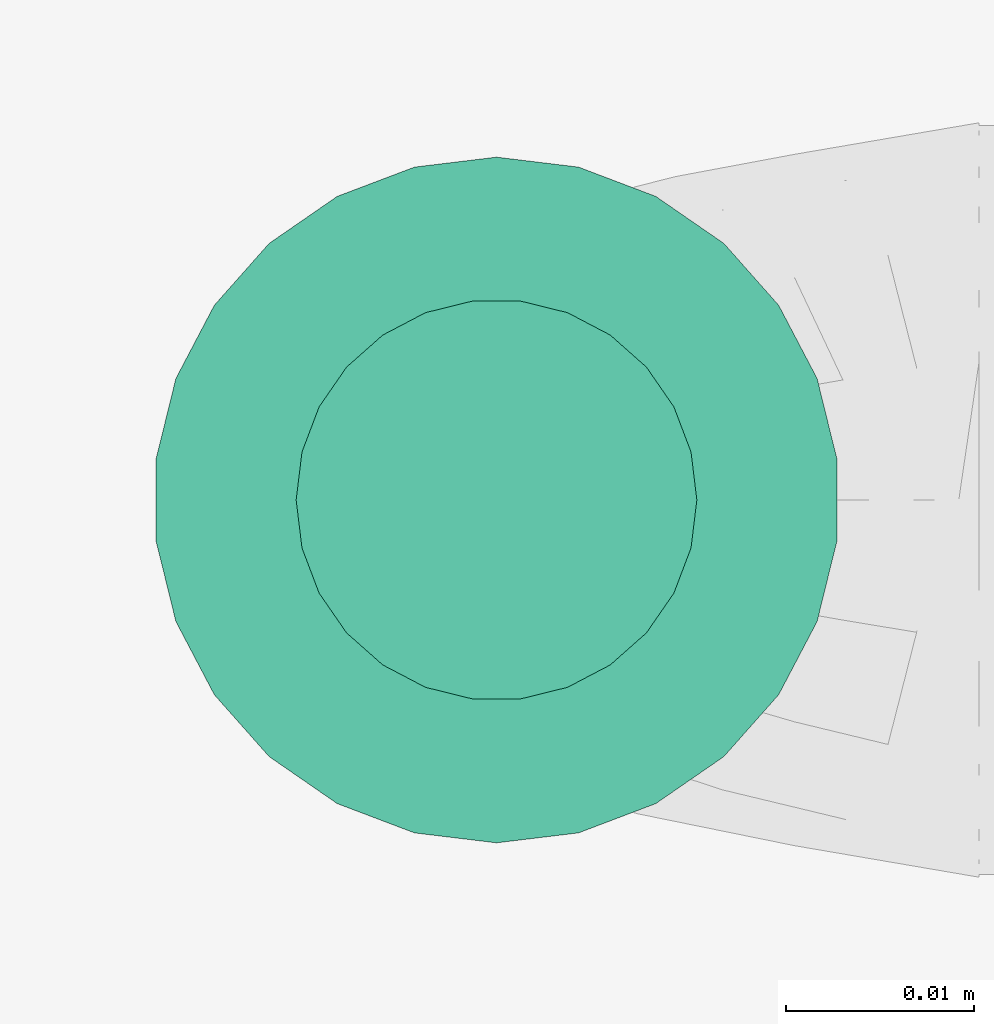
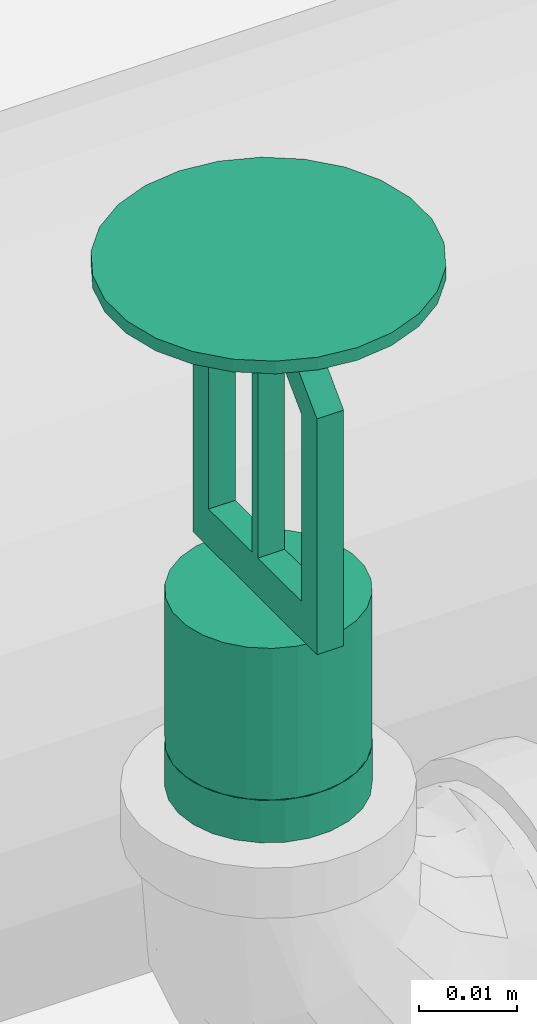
# One storey, part 91 of 108: 1 fire suppression terminal, 1 pipe segment.
"""IFC4 building model written with IfcOpenShell, lengths in feet."""

from ifc_helpers import new_model, entity, si_unit, converted_unit, derived_unit, direction, frame, frame_2d, origin, origin_2d_with_axis, place, context, subcontext, project, spatial, polyline, circle, outline, extrude, source, transform, mapped, material, type_object, type_shapes, element, save


model = new_model("IFC4")

# Units and contexts
model_context = context("Model", 3, precision=0.0001, world=origin(), true_north=direction((6.12303176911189e-17, 1.0)))
body_context = subcontext(model_context, "Body", "Model", "MODEL_VIEW")
ifc_project = project(units=[converted_unit("LENGTHUNIT", "FOOT", entity("IfcRatioMeasure", 0.3048), si_unit("LENGTHUNIT", "METRE"), dimensions=[1, 0, 0, 0, 0, 0, 0]), converted_unit("AREAUNIT", "SQUARE FOOT", entity("IfcRatioMeasure", 0.09290304), si_unit("AREAUNIT", "SQUARE_METRE"), dimensions=[2, 0, 0, 0, 0, 0, 0]), converted_unit("VOLUMEUNIT", "CUBIC FOOT", entity("IfcRatioMeasure", 0.028316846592), si_unit("VOLUMEUNIT", "CUBIC_METRE"), dimensions=[3, 0, 0, 0, 0, 0, 0]), converted_unit("PLANEANGLEUNIT", "DEGREE", entity("IfcRatioMeasure", 0.0174532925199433), si_unit("PLANEANGLEUNIT", "RADIAN"), dimensions=[0, 0, 0, 0, 0, 0, 0]), si_unit("MASSUNIT", "GRAM", prefix="KILO"), derived_unit("MASSDENSITYUNIT", [(si_unit("MASSUNIT", "GRAM", prefix="KILO"), 1), (si_unit("LENGTHUNIT", "METRE"), -3)]), si_unit("TIMEUNIT", "SECOND"), si_unit("FREQUENCYUNIT", "HERTZ"), si_unit("THERMODYNAMICTEMPERATUREUNIT", "DEGREE_CELSIUS"), derived_unit("THERMALTRANSMITTANCEUNIT", [(si_unit("MASSUNIT", "GRAM", prefix="KILO"), 1), (si_unit("THERMODYNAMICTEMPERATUREUNIT", "KELVIN"), -1), (si_unit("TIMEUNIT", "SECOND"), -3)]), derived_unit("VOLUMETRICFLOWRATEUNIT", [(si_unit("LENGTHUNIT", "METRE"), 3), (si_unit("TIMEUNIT", "SECOND"), -1)]), si_unit("ELECTRICCURRENTUNIT", "AMPERE"), si_unit("ELECTRICVOLTAGEUNIT", "VOLT"), si_unit("POWERUNIT", "WATT"), si_unit("FORCEUNIT", "NEWTON"), si_unit("ILLUMINANCEUNIT", "LUX"), si_unit("LUMINOUSFLUXUNIT", "LUMEN"), si_unit("LUMINOUSINTENSITYUNIT", "CANDELA"), derived_unit("USERDEFINED", [(si_unit("MASSUNIT", "GRAM", prefix="KILO"), -1), (si_unit("LENGTHUNIT", "METRE"), -2), (si_unit("TIMEUNIT", "SECOND"), 3), (si_unit("LUMINOUSFLUXUNIT", "LUMEN"), 1)]), derived_unit("LINEARVELOCITYUNIT", [(si_unit("LENGTHUNIT", "METRE"), 1), (si_unit("TIMEUNIT", "SECOND"), -1)]), si_unit("PRESSUREUNIT", "PASCAL"), derived_unit("USERDEFINED", [(si_unit("LENGTHUNIT", "METRE"), -2), (si_unit("MASSUNIT", "GRAM", prefix="KILO"), 1), (si_unit("TIMEUNIT", "SECOND"), -2)])], contexts=[model_context])

# Site, building, storey
site_placement = place(None, origin())
site = spatial("IfcSite", under=ifc_project, at=site_placement, Name="Default", CompositionType="ELEMENT")
building_placement = place(site_placement, origin())
building = spatial("IfcBuilding", under=site, at=building_placement, CompositionType="ELEMENT")
storey_placement = place(building_placement, frame((0.0, 0.0, 168.0)))
storey = spatial("IfcBuildingStorey", under=building, at=storey_placement, Name="Level 15", CompositionType="ELEMENT", Elevation=168.0)

# Pipe segment
pipe_segment_type = type_object("IfcPipeSegmentType", Name="Pipe Types:Fire Prot Sched 10 Main", PredefinedType="NOTDEFINED")
pipe_segment_placement = place(storey_placement, frame((-18.6305995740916, -15.8357977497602, 10.4825910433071)))
element("IfcPipeSegment", 1, at=pipe_segment_placement, inside=storey, type_object=pipe_segment_type, Name="Pipe Types:Fire Prot Sched 10 Main", ObjectType="Pipe Types:Fire Prot Sched 10 Main", PredefinedType="NOTDEFINED", context=body_context, shape_type="SweptSolid", body=[
    extrude(circle(Radius=0.035, at=origin_2d_with_axis()), frame((0.0402338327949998, 0.0402338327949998, 0.0)), (0.0, 0.0, 1.0), 0.0174089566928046),
])

# Fire suppression terminal
ifc_material = material(Name="Default", Category="Miscellaneous")
fire_suppression_terminal_type = type_object("IfcFireSuppressionTerminalType", Name="Standard", PredefinedType="NOTDEFINED", material=ifc_material)
shared_shape = source(origin(), body_context, "Body", "SweptSolid", [
    extrude(outline(polyline([(-0.0416666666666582, -0.0872160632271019), (0.0416666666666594, -0.0872160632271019), (0.0416666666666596, 0.00964585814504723), (0.0167345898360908, 0.0345779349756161), (0.0167345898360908, 0.0429922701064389), (-0.0167345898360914, 0.0429922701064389), (-0.0167345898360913, 0.0345779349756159), (-0.0416666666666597, 0.00964585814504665), (-0.0416666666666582, -0.0872160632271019)]), holes=[polyline([(0.00195312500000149, -0.0715910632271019), (0.00195312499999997, 0.0261635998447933), (0.0104175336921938, 0.0261635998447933), (0.0312499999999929, 0.00533113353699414), (0.0312499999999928, -0.0715910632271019), (0.00195312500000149, -0.0715910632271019)]), polyline([(-0.0019531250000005, -0.0715910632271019), (-0.0312499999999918, -0.0715910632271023), (-0.031249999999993, 0.00533113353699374), (-0.0104175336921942, 0.0261635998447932), (-0.00195312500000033, 0.0261635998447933), (-0.0019531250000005, -0.0715910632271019)])]), frame((0.0, -0.00520833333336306, 0.14971606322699), z_axis=(0.0, 1.0, 0.0), x_axis=(-1.0, 0.0, 0.0)), (0.0, 0.0, 1.0), 0.0104166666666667),
    extrude(circle(Radius=0.035, at=frame_2d((-2.76586283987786e-18, -4.44862351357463e-17), x_axis=(1.0, 0.0))), frame((0.0, 0.0, 0.0), z_axis=(0.0, 0.0, 1.0), x_axis=(-1.0, 0.0, 0.0)), (0.0, 0.0, 1.0), 0.0624999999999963),
    extrude(circle(Radius=0.0598958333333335, at=frame_2d((5.01992838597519e-20, -7.61297178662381e-17), x_axis=(1.0, 0.0))), frame((0.0, 0.0, 0.192708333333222), z_axis=(0.0, 0.0, 1.0), x_axis=(-1.0, 0.0, 0.0)), (0.0, 0.0, 1.0), 0.00520833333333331),
])
type_shapes(fire_suppression_terminal_type, [shared_shape])
fire_suppression_terminal_placement = place(storey_placement, frame((-18.5903657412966, -15.7955639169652, 10.5), z_axis=(0.0, 0.0, 1.0), x_axis=(0.0, -1.0, 0.0)))
element("IfcFireSuppressionTerminal", 2, at=fire_suppression_terminal_placement, inside=storey, type_object=fire_suppression_terminal_type, material=ifc_material, Name="Upright:Standard", ObjectType="Upright:Standard", PredefinedType="NOTDEFINED", context=body_context, shape_type="MappedRepresentation", body=[
    mapped(shared_shape, transform((0.0, 0.0, 0.0), scale=1.0)),
])

save(model, "model.ifc")
